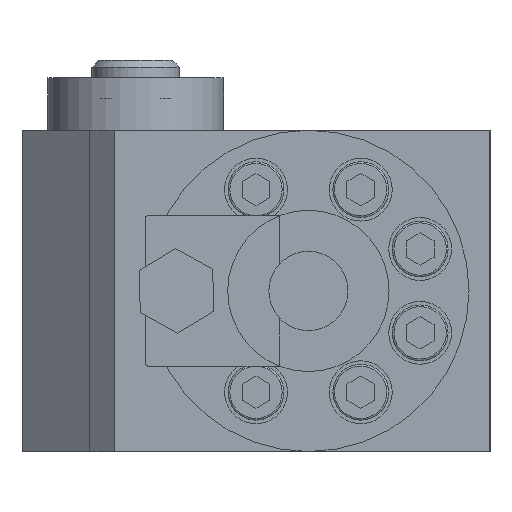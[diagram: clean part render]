
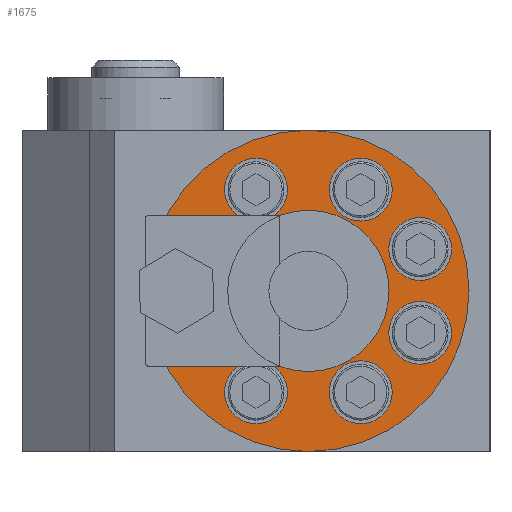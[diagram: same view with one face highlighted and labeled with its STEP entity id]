
A CAD part, left-side view. The second image highlights one B-rep face of the part: STEP entity #1675.
In plain terms, the highlighted planar face has unit normal (-1, 0, 0).
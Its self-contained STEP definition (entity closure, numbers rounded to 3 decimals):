
#1675=ADVANCED_FACE('',(#2981,#2982,#2983,#2984,#2985,#2986,#2987,#2988,
#2989),#2346,.F.);
#2346=PLANE('',#13222);
#2981=FACE_BOUND('',#3849,.T.);
#2982=FACE_BOUND('',#3850,.T.);
#2983=FACE_BOUND('',#3851,.T.);
#2984=FACE_BOUND('',#3852,.T.);
#2985=FACE_BOUND('',#3853,.T.);
#2986=FACE_BOUND('',#3854,.T.);
#2987=FACE_BOUND('',#3855,.T.);
#2988=FACE_BOUND('',#3856,.T.);
#2989=FACE_BOUND('',#3857,.T.);
#3849=EDGE_LOOP('',(#6316));
#3850=EDGE_LOOP('',(#6317));
#3851=EDGE_LOOP('',(#6318));
#3852=EDGE_LOOP('',(#6319));
#3853=EDGE_LOOP('',(#6320));
#3854=EDGE_LOOP('',(#6321));
#3855=EDGE_LOOP('',(#6322));
#3856=EDGE_LOOP('',(#6323));
#3857=EDGE_LOOP('',(#6324));
#4889=CIRCLE('',#13211,46.);
#4891=CIRCLE('',#13214,9.);
#4892=CIRCLE('',#13215,9.);
#4893=CIRCLE('',#13216,9.);
#4894=CIRCLE('',#13217,9.);
#4895=CIRCLE('',#13218,9.);
#4896=CIRCLE('',#13219,9.);
#4897=CIRCLE('',#13220,9.);
#4898=CIRCLE('',#13221,9.);
#6316=ORIENTED_EDGE('',*,*,#9976,.T.);
#6317=ORIENTED_EDGE('',*,*,#9977,.T.);
#6318=ORIENTED_EDGE('',*,*,#9978,.T.);
#6319=ORIENTED_EDGE('',*,*,#9979,.T.);
#6320=ORIENTED_EDGE('',*,*,#9980,.T.);
#6321=ORIENTED_EDGE('',*,*,#9981,.T.);
#6322=ORIENTED_EDGE('',*,*,#9982,.T.);
#6323=ORIENTED_EDGE('',*,*,#9983,.T.);
#6324=ORIENTED_EDGE('',*,*,#9974,.F.);
#8685=VERTEX_POINT('',#18893);
#8687=VERTEX_POINT('',#18898);
#8688=VERTEX_POINT('',#18900);
#8689=VERTEX_POINT('',#18902);
#8690=VERTEX_POINT('',#18904);
#8691=VERTEX_POINT('',#18906);
#8692=VERTEX_POINT('',#18908);
#8693=VERTEX_POINT('',#18910);
#8694=VERTEX_POINT('',#18912);
#9974=EDGE_CURVE('',#8685,#8685,#4889,.T.);
#9976=EDGE_CURVE('',#8687,#8687,#4891,.T.);
#9977=EDGE_CURVE('',#8688,#8688,#4892,.T.);
#9978=EDGE_CURVE('',#8689,#8689,#4893,.T.);
#9979=EDGE_CURVE('',#8690,#8690,#4894,.T.);
#9980=EDGE_CURVE('',#8691,#8691,#4895,.T.);
#9981=EDGE_CURVE('',#8692,#8692,#4896,.T.);
#9982=EDGE_CURVE('',#8693,#8693,#4897,.T.);
#9983=EDGE_CURVE('',#8694,#8694,#4898,.T.);
#13211=AXIS2_PLACEMENT_3D('',#18892,#15369,#15370);
#13214=AXIS2_PLACEMENT_3D('',#18897,#15375,#15376);
#13215=AXIS2_PLACEMENT_3D('',#18899,#15377,#15378);
#13216=AXIS2_PLACEMENT_3D('',#18901,#15379,#15380);
#13217=AXIS2_PLACEMENT_3D('',#18903,#15381,#15382);
#13218=AXIS2_PLACEMENT_3D('',#18905,#15383,#15384);
#13219=AXIS2_PLACEMENT_3D('',#18907,#15385,#15386);
#13220=AXIS2_PLACEMENT_3D('',#18909,#15387,#15388);
#13221=AXIS2_PLACEMENT_3D('',#18911,#15389,#15390);
#13222=AXIS2_PLACEMENT_3D('',#18913,#15391,#15392);
#15369=DIRECTION('',(1.,0.,0.));
#15370=DIRECTION('',(0.,0.,-1.));
#15375=DIRECTION('',(1.,0.,0.));
#15376=DIRECTION('',(0.,0.,1.));
#15377=DIRECTION('',(1.,0.,0.));
#15378=DIRECTION('',(0.,0.,1.));
#15379=DIRECTION('',(1.,0.,0.));
#15380=DIRECTION('',(0.,0.,1.));
#15381=DIRECTION('',(1.,0.,0.));
#15382=DIRECTION('',(0.,0.,1.));
#15383=DIRECTION('',(1.,0.,0.));
#15384=DIRECTION('',(0.,0.,1.));
#15385=DIRECTION('',(1.,0.,0.));
#15386=DIRECTION('',(0.,0.,1.));
#15387=DIRECTION('',(1.,0.,0.));
#15388=DIRECTION('',(0.,0.,1.));
#15389=DIRECTION('',(1.,0.,0.));
#15390=DIRECTION('',(0.,0.,1.));
#15391=DIRECTION('',(1.,0.,0.));
#15392=DIRECTION('',(0.,1.,0.));
#18892=CARTESIAN_POINT('',(-108.529,-2.705,46.));
#18893=CARTESIAN_POINT('',(-108.529,-2.705,0.));
#18897=CARTESIAN_POINT('',(-108.529,12.295,17.));
#18898=CARTESIAN_POINT('',(-108.529,12.295,26.));
#18899=CARTESIAN_POINT('',(-108.529,12.295,75.));
#18900=CARTESIAN_POINT('',(-108.529,12.295,84.));
#18901=CARTESIAN_POINT('',(-108.529,-17.705,75.));
#18902=CARTESIAN_POINT('',(-108.529,-17.705,84.));
#18903=CARTESIAN_POINT('',(-108.529,-17.705,17.));
#18904=CARTESIAN_POINT('',(-108.529,-17.705,26.));
#18905=CARTESIAN_POINT('',(-108.529,29.295,34.));
#18906=CARTESIAN_POINT('',(-108.529,29.295,43.));
#18907=CARTESIAN_POINT('',(-108.529,29.295,58.));
#18908=CARTESIAN_POINT('',(-108.529,29.295,67.));
#18909=CARTESIAN_POINT('',(-108.529,-34.705,58.));
#18910=CARTESIAN_POINT('',(-108.529,-34.705,67.));
#18911=CARTESIAN_POINT('',(-108.529,-34.705,34.));
#18912=CARTESIAN_POINT('',(-108.529,-34.705,43.));
#18913=CARTESIAN_POINT('',(-108.529,-2.705,46.));
